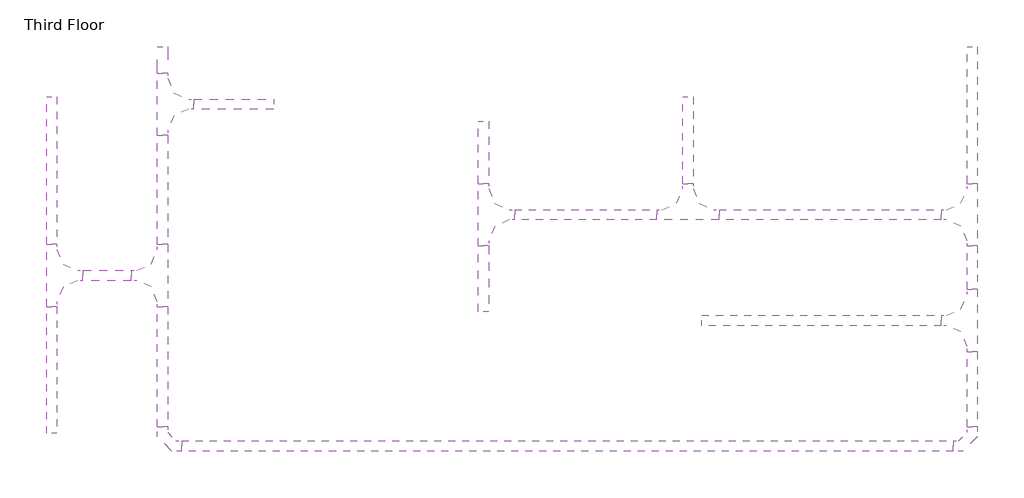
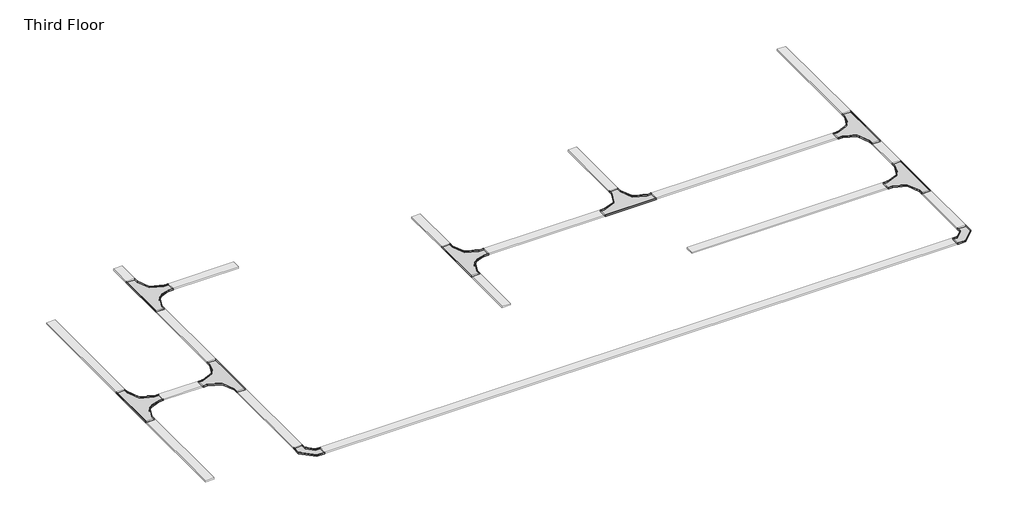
# One storey: 17 cable carrier segments, 9 cable carrier fittings.
"""IFC4 building model written with IfcOpenShell, lengths in millimetres."""

from ifc_helpers import new_model, si_unit, frame, origin, place, context, project, spatial, polyline, outline, extrude, transform, mapped, element, save
from components import cable_tray_horizontal_bend_standard_cea69160, m_channel_horizontal_tee_300mm_radius_7657e6b0

model = new_model("IFC4")

# Units and contexts
model_context = context("Model", 3, world=origin())
ifc_project = project(units=[si_unit("LENGTHUNIT", "METRE", prefix="MILLI")], contexts=[model_context])

# Site, building, storey
site = spatial("IfcSite", under=ifc_project)
building = spatial("IfcBuilding", under=site)
storey = spatial("IfcBuildingStorey", under=building, Name="Third Floor", Elevation=8000.0)

# Cable carrier fittings
placement = place(None, origin())
cable_tray_horizontal_bend_standard_shape = cable_tray_horizontal_bend_standard_cea69160(model_context)
element("IfcCableCarrierFitting", 1, ObjectType="Cable Tray Horizontal Bend : Standard", at=placement, inside=storey, context=model_context, shape_type="MappedRepresentation", body=[
    mapped(cable_tray_horizontal_bend_standard_shape, transform((8567.076402, -4128.3205251, 11000.0), x_axis=(1.0, 0.0, 0.0), y_axis=(0.0, 1.0, 0.0), z_axis=(0.0, 0.0, 1.0))),
])
element("IfcCableCarrierFitting", 2, ObjectType="Cable Tray Horizontal Bend : Standard", at=placement, inside=storey, context=model_context, shape_type="MappedRepresentation", body=[
    mapped(cable_tray_horizontal_bend_standard_shape, transform((-3112.923598, -4128.3205251, 11000.0), x_axis=(0.0, -1.0, 0.0), y_axis=(1.0, 0.0, 0.0), z_axis=(0.0, 0.0, 1.0))),
])
m_channel_horizontal_tee_300mm_radius_shape = m_channel_horizontal_tee_300mm_radius_7657e6b0(model_context)
element("IfcCableCarrierFitting", 3, ObjectType="M_Channel Horizontal Tee : 300mm Radius", at=placement, inside=storey, context=model_context, shape_type="MappedRepresentation", body=[
    mapped(m_channel_horizontal_tee_300mm_radius_shape, transform((8567.076402, -795.1832384, 11000.0), x_axis=(0.0, -1.0, 0.0), y_axis=(1.0, 0.0, 0.0), z_axis=(0.0, 0.0, 1.0))),
])
element("IfcCableCarrierFitting", 4, ObjectType="M_Channel Horizontal Tee : 300mm Radius", at=placement, inside=storey, context=model_context, shape_type="MappedRepresentation", body=[
    mapped(m_channel_horizontal_tee_300mm_radius_shape, transform((4464.6003663, -795.1832384, 11000.0), x_axis=(-1.0, 0.0, 0.0), y_axis=(0.0, -1.0, 0.0), z_axis=(0.0, 0.0, 1.0))),
])
element("IfcCableCarrierFitting", 5, ObjectType="M_Channel Horizontal Tee : 300mm Radius", at=placement, inside=storey, context=model_context, shape_type="MappedRepresentation", body=[
    mapped(m_channel_horizontal_tee_300mm_radius_shape, transform((-3112.923598, 799.2091256, 11000.0), x_axis=(0.0, 1.0, 0.0), y_axis=(-1.0, 0.0, 0.0), z_axis=(0.0, 0.0, 1.0))),
])
element("IfcCableCarrierFitting", 6, ObjectType="M_Channel Horizontal Tee : 300mm Radius", at=placement, inside=storey, context=model_context, shape_type="MappedRepresentation", body=[
    mapped(m_channel_horizontal_tee_300mm_radius_shape, transform((-3112.923598, -1672.0556998, 11000.0), x_axis=(0.0, -1.0, 0.0), y_axis=(1.0, 0.0, 0.0), z_axis=(0.0, 0.0, 1.0))),
])
element("IfcCableCarrierFitting", 7, ObjectType="M_Channel Horizontal Tee : 300mm Radius", at=placement, inside=storey, context=model_context, shape_type="MappedRepresentation", body=[
    mapped(m_channel_horizontal_tee_300mm_radius_shape, transform((-4712.923598, -1672.0556998, 11000.0), x_axis=(0.0, 1.0, 0.0), y_axis=(-1.0, 0.0, 0.0), z_axis=(0.0, 0.0, 1.0))),
])
element("IfcCableCarrierFitting", 8, ObjectType="M_Channel Horizontal Tee : 300mm Radius", at=placement, inside=storey, context=model_context, shape_type="MappedRepresentation", body=[
    mapped(m_channel_horizontal_tee_300mm_radius_shape, transform((1514.6003663, -795.1832384, 11000.0), x_axis=(0.0, 1.0, 0.0), y_axis=(-1.0, 0.0, 0.0), z_axis=(0.0, 0.0, 1.0))),
])
element("IfcCableCarrierFitting", 9, ObjectType="M_Channel Horizontal Tee : 300mm Radius", at=placement, inside=storey, context=model_context, shape_type="MappedRepresentation", body=[
    mapped(m_channel_horizontal_tee_300mm_radius_shape, transform((8567.076402, -2319.0272676, 11000.0), x_axis=(0.0, -1.0, 0.0), y_axis=(1.0, 0.0, 0.0), z_axis=(0.0, 0.0, 1.0))),
])

# Cable carrier segments
element("IfcCableCarrierSegment", 10, ObjectType="Channel Cable Tray", at=placement, inside=storey, context=model_context, shape_type="SweptSolid", body=[
    extrude(outline(polyline([(8492.076402, -2769.0272676), (8642.076402, -2769.0272676), (8642.076402, -3853.3205251), (8492.076402, -3853.3205251), (8492.076402, -2769.0272676)])), frame((0.0, 0.0, 10987.5), z_axis=(0.0, 0.0, 1.0), x_axis=(1.0, 0.0, 0.0)), (0.0, 0.0, 1.0), 25.0),
])
element("IfcCableCarrierSegment", 11, ObjectType="Channel Cable Tray", at=placement, inside=storey, context=model_context, shape_type="SweptSolid", body=[
    extrude(outline(polyline([(8292.076402, -4053.3205251), (8292.076402, -4203.3205251), (-2837.923598, -4203.3205251), (-2837.923598, -4053.3205251), (8292.076402, -4053.3205251)])), frame((0.0, 0.0, 10987.5), z_axis=(0.0, 0.0, 1.0), x_axis=(1.0, 0.0, 0.0)), (0.0, 0.0, 1.0), 25.0),
])
element("IfcCableCarrierSegment", 12, ObjectType="Channel Cable Tray", at=placement, inside=storey, context=model_context, shape_type="SweptSolid", body=[
    extrude(outline(polyline([(4014.6003663, -720.1832384), (4014.6003663, -870.1832384), (1964.6003663, -870.1832384), (1964.6003663, -720.1832384), (4014.6003663, -720.1832384)])), frame((0.0, 0.0, 10987.5), z_axis=(0.0, 0.0, 1.0), x_axis=(1.0, 0.0, 0.0)), (0.0, 0.0, 1.0), 25.0),
])
element("IfcCableCarrierSegment", 13, ObjectType="Channel Cable Tray", at=placement, inside=storey, context=model_context, shape_type="SweptSolid", body=[
    extrude(outline(polyline([(8492.076402, 1631.6794749), (8642.076402, 1631.6794749), (8642.076402, -345.1832384), (8492.076402, -345.1832384), (8492.076402, 1631.6794749)])), frame((0.0, 0.0, 10987.5), z_axis=(0.0, 0.0, 1.0), x_axis=(1.0, 0.0, 0.0)), (0.0, 0.0, 1.0), 25.0),
])
element("IfcCableCarrierSegment", 14, ObjectType="Channel Cable Tray", at=placement, inside=storey, context=model_context, shape_type="SweptSolid", body=[
    extrude(outline(polyline([(4539.6003663, -345.1832384), (4389.6003663, -345.1832384), (4389.6003663, 904.8167616), (4539.6003663, 904.8167616), (4539.6003663, -345.1832384)])), frame((0.0, 0.0, 10987.5), z_axis=(0.0, 0.0, 1.0), x_axis=(1.0, 0.0, 0.0)), (0.0, 0.0, 1.0), 25.0),
])
element("IfcCableCarrierSegment", 15, ObjectType="Channel Cable Tray", at=placement, inside=storey, context=model_context, shape_type="SweptSolid", body=[
    extrude(outline(polyline([(8117.076402, -720.1832384), (8117.076402, -870.1832384), (4914.6003663, -870.1832384), (4914.6003663, -720.1832384), (8117.076402, -720.1832384)])), frame((0.0, 0.0, 10987.5), z_axis=(0.0, 0.0, 1.0), x_axis=(1.0, 0.0, 0.0)), (0.0, 0.0, 1.0), 25.0),
])
element("IfcCableCarrierSegment", 16, ObjectType="Channel Cable Tray", at=placement, inside=storey, context=model_context, shape_type="SweptSolid", body=[
    extrude(outline(polyline([(-3037.923598, 1249.2091256), (-3187.923598, 1249.2091256), (-3187.923598, 1631.6794749), (-3037.923598, 1631.6794749), (-3037.923598, 1249.2091256)])), frame((0.0, 0.0, 10987.5), z_axis=(0.0, 0.0, 1.0), x_axis=(1.0, 0.0, 0.0)), (0.0, 0.0, 1.0), 25.0),
])
element("IfcCableCarrierSegment", 17, ObjectType="Channel Cable Tray", at=placement, inside=storey, context=model_context, shape_type="SweptSolid", body=[
    extrude(outline(polyline([(-2662.923598, 724.2091256), (-2662.923598, 874.2091256), (-1512.923598, 874.2091256), (-1512.923598, 724.2091256), (-2662.923598, 724.2091256)])), frame((0.0, 0.0, 10987.5), z_axis=(0.0, 0.0, 1.0), x_axis=(1.0, 0.0, 0.0)), (0.0, 0.0, 1.0), 25.0),
])
element("IfcCableCarrierSegment", 18, ObjectType="Channel Cable Tray", at=placement, inside=storey, context=model_context, shape_type="SweptSolid", body=[
    extrude(outline(polyline([(-3037.923598, -1222.0556998), (-3187.923598, -1222.0556998), (-3187.923598, 349.2091256), (-3037.923598, 349.2091256), (-3037.923598, -1222.0556998)])), frame((0.0, 0.0, 10987.5), z_axis=(0.0, 0.0, 1.0), x_axis=(1.0, 0.0, 0.0)), (0.0, 0.0, 1.0), 25.0),
])
element("IfcCableCarrierSegment", 19, ObjectType="Channel Cable Tray", at=placement, inside=storey, context=model_context, shape_type="SweptSolid", body=[
    extrude(outline(polyline([(-3562.923598, -1597.0556998), (-3562.923598, -1747.0556998), (-4262.923598, -1747.0556998), (-4262.923598, -1597.0556998), (-3562.923598, -1597.0556998)])), frame((0.0, 0.0, 10987.5), z_axis=(0.0, 0.0, 1.0), x_axis=(1.0, 0.0, 0.0)), (0.0, 0.0, 1.0), 25.0),
])
element("IfcCableCarrierSegment", 20, ObjectType="Channel Cable Tray", at=placement, inside=storey, context=model_context, shape_type="SweptSolid", body=[
    extrude(outline(polyline([(-3037.923598, -3853.3205251), (-3187.923598, -3853.3205251), (-3187.923598, -2122.0556998), (-3037.923598, -2122.0556998), (-3037.923598, -3853.3205251)])), frame((0.0, 0.0, 10987.5), z_axis=(0.0, 0.0, 1.0), x_axis=(1.0, 0.0, 0.0)), (0.0, 0.0, 1.0), 25.0),
])
element("IfcCableCarrierSegment", 21, ObjectType="Channel Cable Tray", at=placement, inside=storey, context=model_context, shape_type="SweptSolid", body=[
    extrude(outline(polyline([(-4637.923598, -1222.0556998), (-4787.923598, -1222.0556998), (-4787.923598, 904.8167616), (-4637.923598, 904.8167616), (-4637.923598, -1222.0556998)])), frame((0.0, 0.0, 10987.5), z_axis=(0.0, 0.0, 1.0), x_axis=(1.0, 0.0, 0.0)), (0.0, 0.0, 1.0), 25.0),
])
element("IfcCableCarrierSegment", 22, ObjectType="Channel Cable Tray", at=placement, inside=storey, context=model_context, shape_type="SweptSolid", body=[
    extrude(outline(polyline([(-4787.923598, -2122.0556998), (-4637.923598, -2122.0556998), (-4637.923598, -3947.0556998), (-4787.923598, -3947.0556998), (-4787.923598, -2122.0556998)])), frame((0.0, 0.0, 10987.5), z_axis=(0.0, 0.0, 1.0), x_axis=(1.0, 0.0, 0.0)), (0.0, 0.0, 1.0), 25.0),
])
element("IfcCableCarrierSegment", 23, ObjectType="Channel Cable Tray", at=placement, inside=storey, context=model_context, shape_type="SweptSolid", body=[
    extrude(outline(polyline([(1439.6003663, -1245.1832384), (1589.6003663, -1245.1832384), (1589.6003663, -2195.1832384), (1439.6003663, -2195.1832384), (1439.6003663, -1245.1832384)])), frame((0.0, 0.0, 10987.5), z_axis=(0.0, 0.0, 1.0), x_axis=(1.0, 0.0, 0.0)), (0.0, 0.0, 1.0), 25.0),
])
element("IfcCableCarrierSegment", 24, ObjectType="Channel Cable Tray", at=placement, inside=storey, context=model_context, shape_type="SweptSolid", body=[
    extrude(outline(polyline([(1589.6003663, -345.1832384), (1439.6003663, -345.1832384), (1439.6003663, 554.8167616), (1589.6003663, 554.8167616), (1589.6003663, -345.1832384)])), frame((0.0, 0.0, 10987.5), z_axis=(0.0, 0.0, 1.0), x_axis=(1.0, 0.0, 0.0)), (0.0, 0.0, 1.0), 25.0),
])
element("IfcCableCarrierSegment", 25, ObjectType="Channel Cable Tray", at=placement, inside=storey, context=model_context, shape_type="SweptSolid", body=[
    extrude(outline(polyline([(8117.076402, -2244.0272676), (8117.076402, -2394.0272676), (4667.076402, -2394.0272676), (4667.076402, -2244.0272676), (8117.076402, -2244.0272676)])), frame((0.0, 0.0, 10987.5), z_axis=(0.0, 0.0, 1.0), x_axis=(1.0, 0.0, 0.0)), (0.0, 0.0, 1.0), 25.0),
])
element("IfcCableCarrierSegment", 26, ObjectType="Channel Cable Tray", at=placement, inside=storey, context=model_context, shape_type="SweptSolid", body=[
    extrude(outline(polyline([(8492.076402, -1245.1832384), (8642.076402, -1245.1832384), (8642.076402, -1869.0272676), (8492.076402, -1869.0272676), (8492.076402, -1245.1832384)])), frame((0.0, 0.0, 10987.5), z_axis=(0.0, 0.0, 1.0), x_axis=(1.0, 0.0, 0.0)), (0.0, 0.0, 1.0), 25.0),
])

save(model, "model.ifc")
